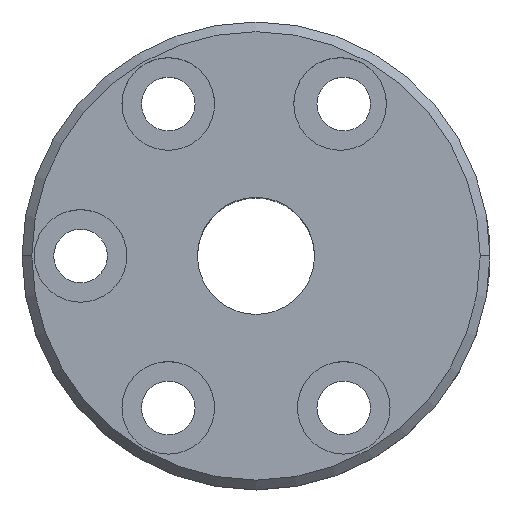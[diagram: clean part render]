
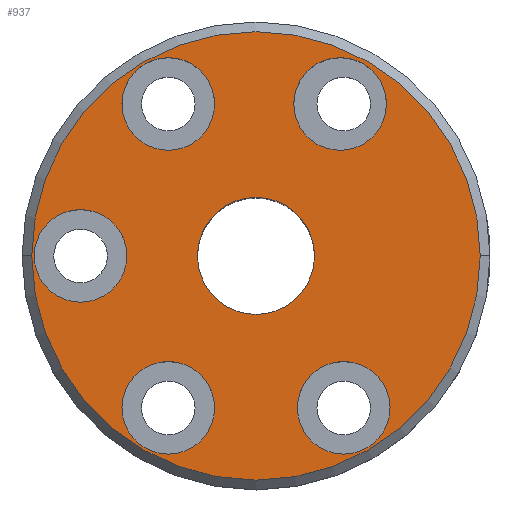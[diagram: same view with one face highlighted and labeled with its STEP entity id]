
A CAD part, top view. The second image highlights one B-rep face of the part: STEP entity #937.
In plain terms, the highlighted planar face has unit normal (0, 0, 1).
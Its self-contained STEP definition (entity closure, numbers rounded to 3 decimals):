
#181=CARTESIAN_POINT('',(0.,0.,10.));
#182=DIRECTION('',(0.,0.,1.));
#183=DIRECTION('',(0.,1.,0.));
#184=AXIS2_PLACEMENT_3D('',#181,#182,#183);
#186=CARTESIAN_POINT('',(0.,0.,10.));
#187=DIRECTION('',(0.,0.,1.));
#188=DIRECTION('',(0.,-1.,0.));
#189=AXIS2_PLACEMENT_3D('',#186,#187,#188);
#191=CARTESIAN_POINT('',(-9.,15.588,10.));
#192=DIRECTION('',(0.,0.,1.));
#193=DIRECTION('',(1.,0.,0.));
#194=AXIS2_PLACEMENT_3D('',#191,#192,#193);
#196=CARTESIAN_POINT('',(-9.,15.588,10.));
#197=DIRECTION('',(0.,0.,1.));
#198=DIRECTION('',(-1.,0.,0.));
#199=AXIS2_PLACEMENT_3D('',#196,#197,#198);
#201=CARTESIAN_POINT('',(8.626,15.588,10.));
#202=DIRECTION('',(0.,0.,1.));
#203=DIRECTION('',(1.,0.,0.));
#204=AXIS2_PLACEMENT_3D('',#201,#202,#203);
#206=CARTESIAN_POINT('',(8.626,15.588,10.));
#207=DIRECTION('',(0.,0.,1.));
#208=DIRECTION('',(-1.,0.,0.));
#209=AXIS2_PLACEMENT_3D('',#206,#207,#208);
#211=CARTESIAN_POINT('',(-18.,0.,10.));
#212=DIRECTION('',(0.,0.,1.));
#213=DIRECTION('',(1.,0.,0.));
#214=AXIS2_PLACEMENT_3D('',#211,#212,#213);
#216=CARTESIAN_POINT('',(-18.,0.,10.));
#217=DIRECTION('',(0.,0.,1.));
#218=DIRECTION('',(-1.,0.,0.));
#219=AXIS2_PLACEMENT_3D('',#216,#217,#218);
#221=CARTESIAN_POINT('',(-9.,-15.588,10.));
#222=DIRECTION('',(0.,0.,1.));
#223=DIRECTION('',(1.,0.,0.));
#224=AXIS2_PLACEMENT_3D('',#221,#222,#223);
#226=CARTESIAN_POINT('',(-9.,-15.588,10.));
#227=DIRECTION('',(0.,0.,1.));
#228=DIRECTION('',(-1.,0.,0.));
#229=AXIS2_PLACEMENT_3D('',#226,#227,#228);
#231=CARTESIAN_POINT('',(9.,-15.588,10.));
#232=DIRECTION('',(0.,0.,1.));
#233=DIRECTION('',(1.,0.,0.));
#234=AXIS2_PLACEMENT_3D('',#231,#232,#233);
#236=CARTESIAN_POINT('',(9.,-15.588,10.));
#237=DIRECTION('',(0.,0.,1.));
#238=DIRECTION('',(-1.,0.,0.));
#239=AXIS2_PLACEMENT_3D('',#236,#237,#238);
#241=CARTESIAN_POINT('',(0.,0.,10.));
#242=DIRECTION('',(0.,0.,1.));
#243=DIRECTION('',(-1.,0.,0.));
#244=AXIS2_PLACEMENT_3D('',#241,#242,#243);
#246=CARTESIAN_POINT('',(0.,0.,10.));
#247=DIRECTION('',(0.,0.,1.));
#248=DIRECTION('',(1.,0.,0.));
#249=AXIS2_PLACEMENT_3D('',#246,#247,#248);
#565=CARTESIAN_POINT('',(0.,6.,10.));
#566=CARTESIAN_POINT('',(0.,-6.,10.));
#567=VERTEX_POINT('',#565);
#568=VERTEX_POINT('',#566);
#613=CARTESIAN_POINT('',(-4.25,15.588,10.));
#614=CARTESIAN_POINT('',(-13.75,15.588,10.));
#615=VERTEX_POINT('',#613);
#616=VERTEX_POINT('',#614);
#617=CARTESIAN_POINT('',(13.376,15.588,10.));
#618=CARTESIAN_POINT('',(3.876,15.588,10.));
#619=VERTEX_POINT('',#617);
#620=VERTEX_POINT('',#618);
#621=CARTESIAN_POINT('',(-13.25,0.,10.));
#622=CARTESIAN_POINT('',(-22.75,0.,10.));
#623=VERTEX_POINT('',#621);
#624=VERTEX_POINT('',#622);
#625=CARTESIAN_POINT('',(-4.25,-15.588,10.));
#626=CARTESIAN_POINT('',(-13.75,-15.588,10.));
#627=VERTEX_POINT('',#625);
#628=VERTEX_POINT('',#626);
#629=CARTESIAN_POINT('',(13.75,-15.588,10.));
#630=CARTESIAN_POINT('',(4.25,-15.588,10.));
#631=VERTEX_POINT('',#629);
#632=VERTEX_POINT('',#630);
#633=CARTESIAN_POINT('',(-23.,0.,10.));
#634=CARTESIAN_POINT('',(23.,0.,10.));
#635=VERTEX_POINT('',#633);
#636=VERTEX_POINT('',#634);
#891=CARTESIAN_POINT('',(0.,0.,10.));
#892=DIRECTION('',(0.,0.,1.));
#893=DIRECTION('',(1.,0.,0.));
#894=AXIS2_PLACEMENT_3D('',#891,#892,#893);
#895=PLANE('',#894);
#897=ORIENTED_EDGE('',*,*,#896,.F.);
#899=ORIENTED_EDGE('',*,*,#898,.F.);
#900=EDGE_LOOP('',(#897,#899));
#901=FACE_OUTER_BOUND('',#900,.F.);
#903=ORIENTED_EDGE('',*,*,#902,.T.);
#905=ORIENTED_EDGE('',*,*,#904,.T.);
#906=EDGE_LOOP('',(#903,#905));
#907=FACE_BOUND('',#906,.F.);
#909=ORIENTED_EDGE('',*,*,#908,.T.);
#911=ORIENTED_EDGE('',*,*,#910,.T.);
#912=EDGE_LOOP('',(#909,#911));
#913=FACE_BOUND('',#912,.F.);
#915=ORIENTED_EDGE('',*,*,#914,.T.);
#917=ORIENTED_EDGE('',*,*,#916,.T.);
#918=EDGE_LOOP('',(#915,#917));
#919=FACE_BOUND('',#918,.F.);
#921=ORIENTED_EDGE('',*,*,#920,.T.);
#923=ORIENTED_EDGE('',*,*,#922,.T.);
#924=EDGE_LOOP('',(#921,#923));
#925=FACE_BOUND('',#924,.F.);
#927=ORIENTED_EDGE('',*,*,#926,.T.);
#929=ORIENTED_EDGE('',*,*,#928,.T.);
#930=EDGE_LOOP('',(#927,#929));
#931=FACE_BOUND('',#930,.F.);
#932=ORIENTED_EDGE('',*,*,#881,.T.);
#934=ORIENTED_EDGE('',*,*,#933,.T.);
#935=EDGE_LOOP('',(#932,#934));
#936=FACE_BOUND('',#935,.F.);
#937=ADVANCED_FACE('',(#901,#907,#913,#919,#925,#931,#936),#895,.T.);
#185=CIRCLE('',#184,6.);
#190=CIRCLE('',#189,6.);
#195=CIRCLE('',#194,4.75);
#200=CIRCLE('',#199,4.75);
#205=CIRCLE('',#204,4.75);
#210=CIRCLE('',#209,4.75);
#215=CIRCLE('',#214,4.75);
#220=CIRCLE('',#219,4.75);
#225=CIRCLE('',#224,4.75);
#230=CIRCLE('',#229,4.75);
#235=CIRCLE('',#234,4.75);
#240=CIRCLE('',#239,4.75);
#245=CIRCLE('',#244,23.);
#250=CIRCLE('',#249,23.);
#881=EDGE_CURVE('',#567,#568,#185,.T.);
#896=EDGE_CURVE('',#635,#636,#245,.T.);
#898=EDGE_CURVE('',#636,#635,#250,.T.);
#902=EDGE_CURVE('',#615,#616,#195,.T.);
#904=EDGE_CURVE('',#616,#615,#200,.T.);
#908=EDGE_CURVE('',#619,#620,#205,.T.);
#910=EDGE_CURVE('',#620,#619,#210,.T.);
#914=EDGE_CURVE('',#623,#624,#215,.T.);
#916=EDGE_CURVE('',#624,#623,#220,.T.);
#920=EDGE_CURVE('',#627,#628,#225,.T.);
#922=EDGE_CURVE('',#628,#627,#230,.T.);
#926=EDGE_CURVE('',#631,#632,#235,.T.);
#928=EDGE_CURVE('',#632,#631,#240,.T.);
#933=EDGE_CURVE('',#568,#567,#190,.T.);
